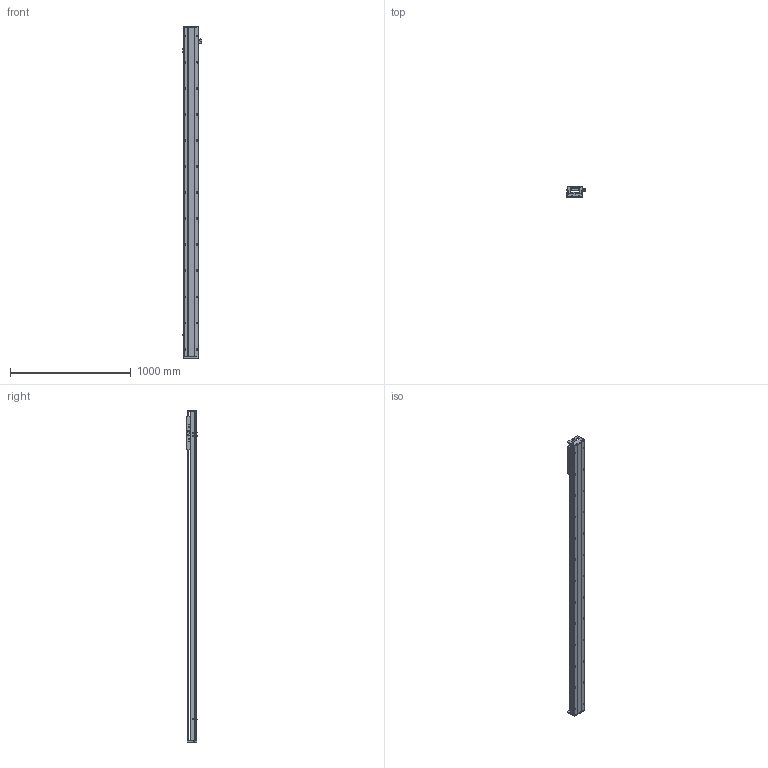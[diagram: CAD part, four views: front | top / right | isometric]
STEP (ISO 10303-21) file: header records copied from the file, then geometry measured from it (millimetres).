
FILE_DESCRIPTION (( 'STEP AP203' ), '1' );
FILE_NAME ('SKR12S-C2-S2368（简）.STEP', '2022-09-26T05:39:19', ( '' ), ( '' ), 'SwSTEP 2.0', 'SolidWorks 2018', '' );
FILE_SCHEMA (( 'CONFIG_CONTROL_DESIGN' ));
Length unit declared in the file: millimetre
Products named in the file (8): SIKO棠掑; SKR12耜啣; SKR12菁釱-C2-S2368(潠); SKR12滑台-280L（简）; SKR12S-C2-S2368（简）; 棠掑假蚾輸; 覜茼え; EE-SX672
Assembly tree (10 placements, depth 2):
  SKR12S-C2-S2368（简）
    SKR12菁釱-C2-S2368(潠)
    SKR12滑台-280L（简）
    SKR12耜啣  x2
    棠掑假蚾輸
    SIKO棠掑
    EE-SX672  x3
    覜茼え
Bounding box: 162.7 x 87.3 x 2748 mm (x, y, z)
Volume: 11973754.5 mm3; surface area: 1861829.3 mm2
Topology: 11 solids, 11 shells, 1166 faces, 3133 edges, 1975 vertices
Faces by surface type: cylinder 576, plane 428, cone 162
Entity records: 33311 total; most frequent: CARTESIAN_POINT 7391, DIRECTION 5337, ORIENTED_EDGE 5174, EDGE_CURVE 2587, AXIS2_PLACEMENT_3D 2001, VERTEX_POINT 1679, LINE 1335, VECTOR 1335
